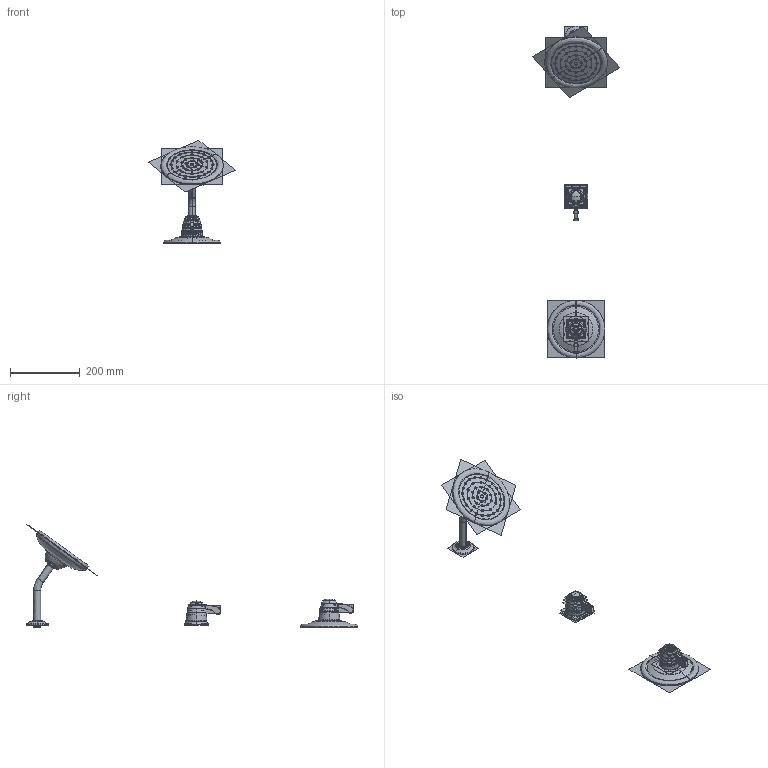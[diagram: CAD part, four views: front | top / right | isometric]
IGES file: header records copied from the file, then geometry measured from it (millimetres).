
Start section:  PTC IGES file: sku_tl3400_asm.igs
Global section: file name: sku_tl3400_asm.igs; native system: Pro/ENGINEER by Parametric Technology Corporation; preprocessor: 2007460; author: 9kanim; organization: Unknown; date: 20081006.142952; units: inch
Bounding box: 251.19 x 952.5 x 295.75 mm (x, y, z)
Volume: 214324 mm3; surface area: 1423819.1 mm2
Topology: 16 solids, 17 shells, 4648 faces, 24132 edges, 30283 vertices
Faces by surface type: bspline 2534, revolution 2114
